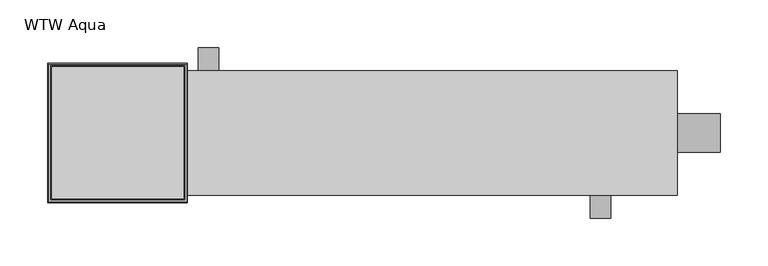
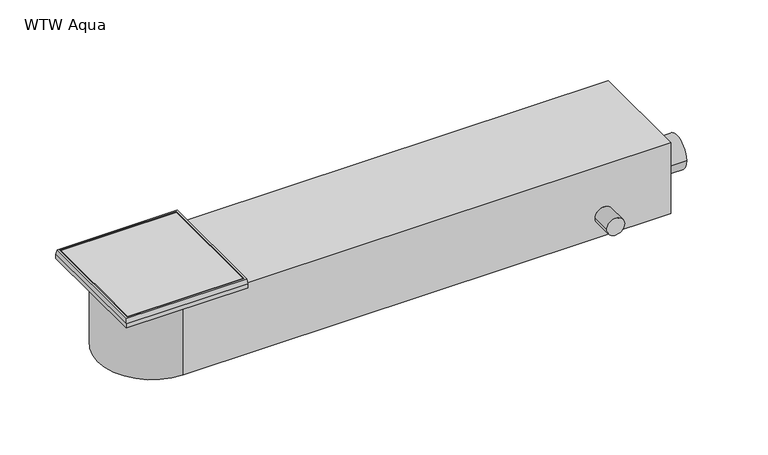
"""IFC4 building model written with IfcOpenShell, lengths in millimetres: sanitary terminal geometry, NLRS_PF_52_UN_WTW systeem Aqua grate_Easydrain : WTW Aqua."""

from ifc_helpers import new_model, si_unit, frame, origin, place, context, project, spatial, polyline, circle_curve, faceted_brep, source, transform, mapped, element, save
from ifc_brep_helpers import plane_surface, cylinder_surface, revolved_surface, advanced_brep


def wtw_aqua_157d25cd(model_context):
    return source(origin(), model_context, "Body", "SolidModel", [
        faceted_brep([(138.0, 73.0, 0.0), (138.0, -73.0, 0.0), (-8.0, -73.0, 0.0), (-8.0, 73.0, 0.0), (137.0, -72.0, 11.0), (137.0, 72.0, 11.0), (-7.0, 72.0, 11.0), (-7.0, -72.0, 11.0), (135.0, 70.0, 11.0), (135.0, -70.0, 11.0), (-5.0, -70.0, 11.0), (-5.0, 70.0, 11.0), (134.0, -69.0, 11.0), (134.0, 69.0, 11.0), (-4.0, 69.0, 11.0), (-4.0, -69.0, 11.0), (-8.0, 73.0, 5.0), (138.0, 73.0, 5.0), (-8.0, -73.0, 5.0), (138.0, -73.0, 5.0), (134.0, -69.0, 5.0), (134.0, 69.0, 5.0), (135.0, 70.0, 5.0), (135.0, -70.0, 5.0), (-4.0, -69.0, 5.0), (-5.0, -70.0, 5.0), (-4.0, 69.0, 5.0), (-5.0, 70.0, 5.0)], [[[0, 1, 2, 3]], [[4, 5, 6, 7], [8, 9, 10, 11]], [[12, 13, 14, 15]], [[0, 3, 16, 17]], [[3, 2, 18, 16]], [[2, 1, 19, 18]], [[1, 0, 17, 19]], [[4, 19, 17, 5]], [[12, 20, 21, 13]], [[22, 23, 9, 8]], [[19, 4, 7, 18]], [[20, 12, 15, 24]], [[9, 23, 25, 10]], [[18, 7, 6, 16]], [[24, 15, 14, 26]], [[10, 25, 27, 11]], [[5, 17, 16, 6]], [[23, 22, 27, 25], [21, 20, 24, 26]], [[13, 21, 26, 14]], [[22, 8, 11, 27]]]),
        advanced_brep(
        [(65.0, -65.0, 0.0), (650.0, -65.0, 0.0), (650.0, 65.0, 0.0), (65.0, 65.0, 0.0), (116.0, 0.0, 0.0), (14.0, 0.0, 0.0), (65.0, -65.0, -90.0), (65.0, 65.0, -90.0), (650.0, 65.0, -90.0), (650.0, -65.0, -90.0), (559.35, -65.0, -64.0), (580.65, -65.0, -64.0), (650.0, -20.0, -66.0), (650.0, 20.0, -66.0), (170.65, 65.0, -56.0), (149.35, 65.0, -56.0), (14.0, 0.0, -80.0), (116.0, 0.0, -80.0), (695.0, -20.0, -66.0), (695.0, 20.0, -66.0), (559.35, -89.0, -64.0), (580.65, -89.0, -64.0), (149.35, 89.0, -56.0), (170.65, 89.0, -56.0)],
        [
            (0, 1),
            (1, 2),
            (2, 3),
            (3, 0, circle_curve(frame((65.0, 0.0, 0.0), z_axis=(0.0, 0.0, 1.0), x_axis=(1.0, 0.0, 0.0)), 65.0)),
            (4, 5, circle_curve(frame((65.0, 0.0, 0.0), z_axis=(0.0, 0.0, -1.0), x_axis=(1.0, 0.0, 0.0)), 51.0)),
            (5, 4, circle_curve(frame((65.0, 0.0, 0.0), z_axis=(0.0, 0.0, -1.0), x_axis=(1.0, 0.0, 0.0)), 51.0)),
            (6, 7, circle_curve(frame((65.0, 0.0, -90.0), z_axis=(0.0, 0.0, -1.0), x_axis=(1.0, 0.0, 0.0)), 65.0)),
            (7, 8),
            (8, 9),
            (9, 6),
            (0, 6),
            (9, 1),
            (10, 11, circle_curve(frame((570.0, -65.0, -64.0), z_axis=(0.0, 1.0, 0.0), x_axis=(1.0, 0.0, 0.0)), 10.65)),
            (11, 10, circle_curve(frame((570.0, -65.0, -64.0), z_axis=(0.0, 1.0, 0.0), x_axis=(1.0, 0.0, 0.0)), 10.65)),
            (8, 2),
            (12, 13, circle_curve(frame((650.0, 0.0, -66.0), z_axis=(-1.0, 0.0, 0.0), x_axis=(0.0, 1.0, 0.0)), 20.0)),
            (13, 12, circle_curve(frame((650.0, 0.0, -66.0), z_axis=(-1.0, 0.0, 0.0), x_axis=(0.0, 1.0, 0.0)), 20.0)),
            (7, 3),
            (14, 15, circle_curve(frame((160.0, 65.0, -56.0), z_axis=(0.0, -1.0, 0.0), x_axis=(1.0, 0.0, 0.0)), 10.65)),
            (15, 14, circle_curve(frame((160.0, 65.0, -56.0), z_axis=(0.0, -1.0, 0.0), x_axis=(1.0, 0.0, 0.0)), 10.65)),
            (16, 17, circle_curve(frame((65.0, 0.0, -80.0), z_axis=(0.0, 0.0, 1.0), x_axis=(1.0, 0.0, 0.0)), 51.0)),
            (17, 16, circle_curve(frame((65.0, 0.0, -80.0), z_axis=(0.0, 0.0, 1.0), x_axis=(1.0, 0.0, 0.0)), 51.0)),
            (16, 5),
            (4, 17),
            (18, 19, circle_curve(frame((695.0, 0.0, -66.0), z_axis=(1.0, 0.0, 0.0), x_axis=(0.0, 1.0, 0.0)), 20.0)),
            (19, 18, circle_curve(frame((695.0, 0.0, -66.0), z_axis=(1.0, 0.0, 0.0), x_axis=(0.0, 1.0, 0.0)), 20.0)),
            (19, 13),
            (12, 18),
            (20, 21, circle_curve(frame((570.0, -89.0, -64.0), z_axis=(0.0, -1.0, 0.0), x_axis=(1.0, 0.0, 0.0)), 10.65)),
            (21, 20, circle_curve(frame((570.0, -89.0, -64.0), z_axis=(0.0, -1.0, 0.0), x_axis=(1.0, 0.0, 0.0)), 10.65)),
            (21, 11),
            (10, 20),
            (22, 23, circle_curve(frame((160.0, 89.0, -56.0), z_axis=(0.0, 1.0, 0.0), x_axis=(1.0, 0.0, 0.0)), 10.65)),
            (23, 22, circle_curve(frame((160.0, 89.0, -56.0), z_axis=(0.0, 1.0, 0.0), x_axis=(1.0, 0.0, 0.0)), 10.65)),
            (22, 15),
            (14, 23),
        ],
        [
            plane_surface(frame((650.0, -65.0, 0.0), z_axis=(0.0, 0.0, 1.0), x_axis=(1.0, 0.0, 0.0))),
            plane_surface(frame((650.0, -65.0, -90.0), z_axis=(0.0, 0.0, -1.0), x_axis=(-1.0, 0.0, 0.0))),
            plane_surface(frame((65.0, -65.0, 0.0), z_axis=(0.0, -1.0, 0.0), x_axis=(0.0, 0.0, -1.0))),
            plane_surface(frame((650.0, -65.0, 0.0), z_axis=(1.0, 0.0, 0.0), x_axis=(0.0, 0.0, -1.0))),
            plane_surface(frame((650.0, 65.0, 0.0), z_axis=(0.0, 1.0, 0.0), x_axis=(0.0, 0.0, -1.0))),
            cylinder_surface(frame((65.0, 0.0, -90.0), z_axis=(0.0, 0.0, 1.0), x_axis=(1.0, 0.0, 0.0)), 65.0),
            plane_surface(frame((116.0, 0.0, -80.0), z_axis=(0.0, 0.0, 1.0), x_axis=(0.0, -1.0, 0.0))),
            revolved_surface(polyline([(116.0, 0.0, 0.0), (116.0, 0.0, -80.0)]), (65.0, 0.0, -80.0), (0.0, 0.0, 1.0)),
            plane_surface(frame((695.0, 0.0, -66.0), z_axis=(1.0, 0.0, 0.0), x_axis=(0.0, 0.0, 1.0))),
            cylinder_surface(frame((325.0, 0.0, -66.0), z_axis=(-1.0, 0.0, 0.0), x_axis=(0.0, 1.0, 0.0)), 20.0),
            plane_surface(frame((570.0, -89.0, -64.0), z_axis=(0.0, -1.0, 0.0), x_axis=(0.0, 0.0, 1.0))),
            cylinder_surface(frame((570.0, 0.0, -64.0), z_axis=(0.0, 1.0, 0.0), x_axis=(1.0, 0.0, 0.0)), 10.65),
            plane_surface(frame((160.0, 89.0, -56.0), z_axis=(0.0, 1.0, 0.0), x_axis=(0.0, 0.0, 1.0))),
            cylinder_surface(frame((160.0, 89.0, -56.0), z_axis=(0.0, 1.0, 0.0), x_axis=(1.0, 0.0, 0.0)), 10.65),
        ],
        [
            (0, [[1, 2, 3, 4], [5, 6]]),
            (1, [[7, 8, 9, 10]]),
            (2, [[-1, 11, -10, 12], [13, 14]]),
            (3, [[-2, -12, -9, 15], [16, 17]]),
            (4, [[-3, -15, -8, 18], [19, 20]]),
            (5, [[-4, -18, -7, -11]]),
            (6, [[21, 22]]),
            (7, [[-21, 23, -5, 24]]),
            (7, [[-22, -24, -6, -23]]),
            (8, [[25, 26]]),
            (9, [[-26, 27, -16, 28]]),
            (9, [[-25, -28, -17, -27]]),
            (10, [[29, 30]]),
            (11, [[-30, 31, -13, 32]]),
            (11, [[-29, -32, -14, -31]]),
            (12, [[33, 34]]),
            (13, [[-33, 35, -19, 36]]),
            (13, [[-34, -36, -20, -35]]),
        ],
    ),
    ])


if __name__ == "__main__":
    model = new_model("IFC4")
    model_context = context("Model", 3, world=origin())
    ifc_project = project(units=[si_unit("LENGTHUNIT", "METRE", prefix="MILLI")], contexts=[model_context])
    site = spatial("IfcSite", under=ifc_project)
    building = spatial("IfcBuilding", under=site)
    placement = place(None, origin())
    wtw_aqua_shape = wtw_aqua_157d25cd(model_context)
    element("IfcSanitaryTerminal", 1, ObjectType="NLRS_PF_52_UN_WTW systeem Aqua grate_Easydrain : WTW Aqua", at=placement, inside=building, context=model_context, shape_type="MappedRepresentation", body=[
        mapped(wtw_aqua_shape, transform((0.0, 0.0, 0.0), x_axis=(1.0, 0.0, 0.0), y_axis=(0.0, 1.0, 0.0), z_axis=(0.0, 0.0, 1.0))),
    ])
    save(model, "model.ifc")
